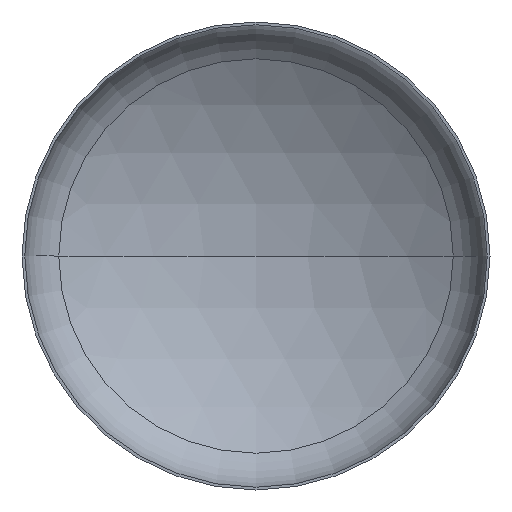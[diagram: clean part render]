
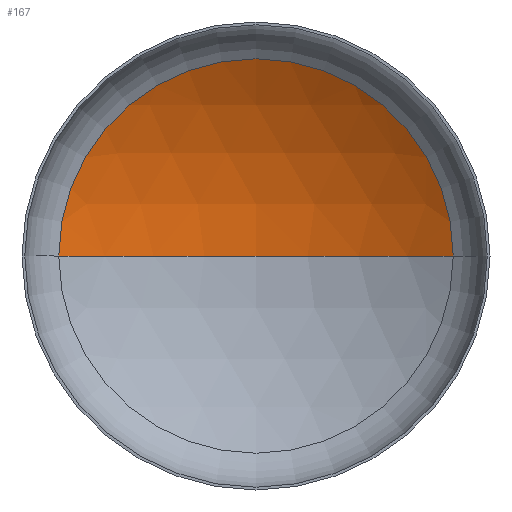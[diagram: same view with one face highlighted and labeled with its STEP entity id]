
A CAD part, front view. The second image highlights one B-rep face of the part: STEP entity #167.
In plain terms, the highlighted spherical face has radius 6400 mm.
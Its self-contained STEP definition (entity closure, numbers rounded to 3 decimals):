
#6 = ORIENTED_EDGE ( 'NONE', *, *, #100, .T. ) ;
#12 = ORIENTED_EDGE ( 'NONE', *, *, #105, .T. ) ;
#21 = VERTEX_POINT ( 'NONE', #284 ) ;
#24 = AXIS2_PLACEMENT_3D ( 'NONE', #247, #266, #234 ) ;
#55 = AXIS2_PLACEMENT_3D ( 'NONE', #214, #203, #199 ) ;
#58 = AXIS2_PLACEMENT_3D ( 'NONE', #295, #293, #291 ) ;
#62 = AXIS2_PLACEMENT_3D ( 'NONE', #290, #289, #183 ) ;
#65 = ORIENTED_EDGE ( 'NONE', *, *, #108, .F. ) ;
#100 = EDGE_CURVE ( 'NONE', #21, #156, #346, .T. ) ;
#101 = FACE_OUTER_BOUND ( 'NONE', #130, .T. ) ;
#105 = EDGE_CURVE ( 'NONE', #408, #21, #223, .T. ) ;
#108 = EDGE_CURVE ( 'NONE', #408, #156, #217, .T. ) ;
#130 = EDGE_LOOP ( 'NONE', ( #65, #12, #6 ) ) ;
#156 = VERTEX_POINT ( 'NONE', #322 ) ;
#167 = ADVANCED_FACE ( 'NONE', ( #101 ), #330, .F. ) ;
#183 = DIRECTION ( 'NONE',  ( 1., 0., 0. ) ) ;
#187 = CARTESIAN_POINT ( 'NONE',  ( 0., 2155.211, 0. ) ) ;
#199 = DIRECTION ( 'NONE',  ( 1., 0., 0. ) ) ;
#203 = DIRECTION ( 'NONE',  ( 0., 0., 1. ) ) ;
#214 = CARTESIAN_POINT ( 'NONE',  ( 0., -4244.789, 0. ) ) ;
#217 = CIRCLE ( 'NONE', #55, 6400. ) ;
#223 = CIRCLE ( 'NONE', #58, 6400. ) ;
#234 = DIRECTION ( 'NONE',  ( -1., 0., 0. ) ) ;
#247 = CARTESIAN_POINT ( 'NONE',  ( 0., -4244.789, 0. ) ) ;
#266 = DIRECTION ( 'NONE',  ( 0., 0., -1. ) ) ;
#284 = CARTESIAN_POINT ( 'NONE',  ( 3370.832, 1195.569, 0. ) ) ;
#289 = DIRECTION ( 'NONE',  ( 0., -1., 0. ) ) ;
#290 = CARTESIAN_POINT ( 'NONE',  ( 0., 1195.569, 0. ) ) ;
#291 = DIRECTION ( 'NONE',  ( -1., 0., 0. ) ) ;
#293 = DIRECTION ( 'NONE',  ( 0., 0., -1. ) ) ;
#295 = CARTESIAN_POINT ( 'NONE',  ( 0., -4244.789, 0. ) ) ;
#322 = CARTESIAN_POINT ( 'NONE',  ( -3370.832, 1195.569, 0. ) ) ;
#330 = SPHERICAL_SURFACE ( 'NONE', #24, 6400. ) ;
#346 = CIRCLE ( 'NONE', #62, 3370.832 ) ;
#408 = VERTEX_POINT ( 'NONE', #187 ) ;
